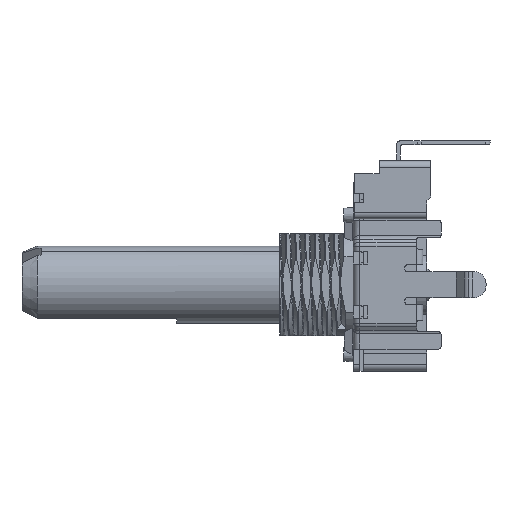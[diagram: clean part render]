
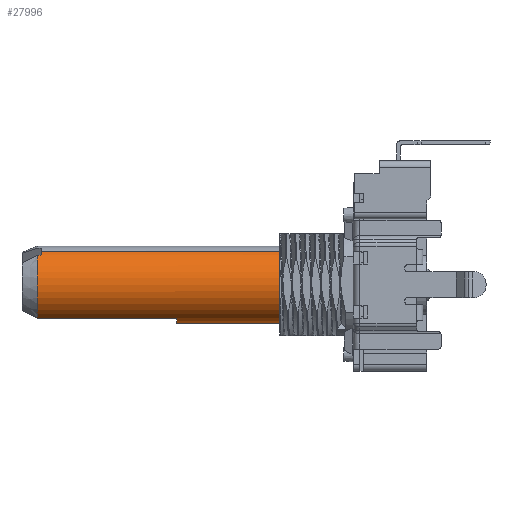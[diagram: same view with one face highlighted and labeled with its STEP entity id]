
A CAD part, left-side view. The second image highlights one B-rep face of the part: STEP entity #27996.
In plain terms, the highlighted cylindrical face has radius 3 mm (diameter 6 mm), a partial arc.
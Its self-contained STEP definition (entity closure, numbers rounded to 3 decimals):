
#94 = ORIENTED_EDGE ( 'NONE', *, *, #22704, .F. ) ;
#376 = LINE ( 'NONE', #14640, #18029 ) ;
#467 = DIRECTION ( 'NONE',  ( 0., 1., 0. ) ) ;
#867 =( BOUNDED_CURVE ( )  B_SPLINE_CURVE ( 3, ( #17615, #25774, #3351, #25600 ),
 .UNSPECIFIED., .F., .F. ) 
 B_SPLINE_CURVE_WITH_KNOTS ( ( 4, 4 ),
 ( 4.528, 4.545 ),
 .UNSPECIFIED. ) 
 CURVE ( )  GEOMETRIC_REPRESENTATION_ITEM ( )  RATIONAL_B_SPLINE_CURVE ( ( 1., 1., 1., 1. ) ) 
 REPRESENTATION_ITEM ( '' )  );
#961 = CARTESIAN_POINT ( 'NONE',  ( 0., 27.3, -3. ) ) ;
#1034 = AXIS2_PLACEMENT_3D ( 'NONE', #20091, #8620, #36206 ) ;
#2163 = EDGE_CURVE ( 'NONE', #8555, #15622, #2675, .T. ) ;
#2675 = CIRCLE ( 'NONE', #12149, 3. ) ;
#3351 = CARTESIAN_POINT ( 'NONE',  ( 0.517, 27.4, -2.955 ) ) ;
#3901 = DIRECTION ( 'NONE',  ( 0., 1., 0. ) ) ;
#4743 = CARTESIAN_POINT ( 'NONE',  ( 0.55, 27.6, -2.949 ) ) ;
#6471 = VERTEX_POINT ( 'NONE', #28719 ) ;
#7852 = VERTEX_POINT ( 'NONE', #961 ) ;
#8010 = CARTESIAN_POINT ( 'NONE',  ( 0., 2.5, 3. ) ) ;
#8049 = CARTESIAN_POINT ( 'NONE',  ( 0., 27.6, 3. ) ) ;
#8555 = VERTEX_POINT ( 'NONE', #8010 ) ;
#8620 = DIRECTION ( 'NONE',  ( 0., -1., 0. ) ) ;
#8784 = CIRCLE ( 'NONE', #12329, 3. ) ;
#8810 = CYLINDRICAL_SURFACE ( 'NONE', #1034, 3. ) ;
#11205 = EDGE_CURVE ( 'NONE', #6471, #8555, #22129, .T. ) ;
#11373 = DIRECTION ( 'NONE',  ( 0., -1., 0. ) ) ;
#12136 = AXIS2_PLACEMENT_3D ( 'NONE', #25904, #23117, #22745 ) ;
#12149 = AXIS2_PLACEMENT_3D ( 'NONE', #32719, #29955, #15923 ) ;
#12329 = AXIS2_PLACEMENT_3D ( 'NONE', #25839, #467, #27126 ) ;
#12904 = ORIENTED_EDGE ( 'NONE', *, *, #2163, .T. ) ;
#13635 = VECTOR ( 'NONE', #11373, 1000. ) ;
#14581 = EDGE_CURVE ( 'NONE', #6471, #31170, #30439, .T. ) ;
#14640 = CARTESIAN_POINT ( 'NONE',  ( 0., 27.6, -3. ) ) ;
#14819 = DIRECTION ( 'NONE',  ( 0., -1., 0. ) ) ;
#15622 = VERTEX_POINT ( 'NONE', #26468 ) ;
#15812 = DIRECTION ( 'NONE',  ( 0., 1., 0. ) ) ;
#15923 = DIRECTION ( 'NONE',  ( 0., 0., 1. ) ) ;
#16428 = VECTOR ( 'NONE', #15812, 1000. ) ;
#16587 = VERTEX_POINT ( 'NONE', #4743 ) ;
#17095 = EDGE_CURVE ( 'NONE', #16587, #27289, #867, .T. ) ;
#17615 = CARTESIAN_POINT ( 'NONE',  ( 0.55, 27.6, -2.949 ) ) ;
#18029 = VECTOR ( 'NONE', #14819, 1000. ) ;
#18641 = AXIS2_PLACEMENT_3D ( 'NONE', #29260, #3901, #32212 ) ;
#18926 = EDGE_CURVE ( 'NONE', #31170, #21321, #24140, .T. ) ;
#20091 = CARTESIAN_POINT ( 'NONE',  ( 0., 27.6, 0. ) ) ;
#20387 = CIRCLE ( 'NONE', #12136, 3. ) ;
#21321 = VERTEX_POINT ( 'NONE', #34296 ) ;
#22129 = LINE ( 'NONE', #8049, #13635 ) ;
#22704 = EDGE_CURVE ( 'NONE', #7852, #15622, #376, .T. ) ;
#22745 = DIRECTION ( 'NONE',  ( 0., 0., -1. ) ) ;
#23117 = DIRECTION ( 'NONE',  ( 0., 1., 0. ) ) ;
#23576 = ORIENTED_EDGE ( 'NONE', *, *, #30130, .F. ) ;
#24140 = LINE ( 'NONE', #35399, #16428 ) ;
#24711 = EDGE_LOOP ( 'NONE', ( #33439, #27607, #12904, #94, #30101, #33084, #23576, #33403 ) ) ;
#24910 = CARTESIAN_POINT ( 'NONE',  ( 0.5, 27.3, -2.958 ) ) ;
#25600 = CARTESIAN_POINT ( 'NONE',  ( 0.5, 27.3, -2.958 ) ) ;
#25774 = CARTESIAN_POINT ( 'NONE',  ( 0.533, 27.5, -2.952 ) ) ;
#25839 = CARTESIAN_POINT ( 'NONE',  ( 0., 27.6, 0. ) ) ;
#25904 = CARTESIAN_POINT ( 'NONE',  ( 0., 27.3, 0. ) ) ;
#26349 = CARTESIAN_POINT ( 'NONE',  ( 2.598, 16.8, 1.5 ) ) ;
#26468 = CARTESIAN_POINT ( 'NONE',  ( 0., 2.5, -3. ) ) ;
#27126 = DIRECTION ( 'NONE',  ( 0., 0., 1. ) ) ;
#27289 = VERTEX_POINT ( 'NONE', #24910 ) ;
#27607 = ORIENTED_EDGE ( 'NONE', *, *, #11205, .T. ) ;
#27996 = ADVANCED_FACE ( 'NONE', ( #33946 ), #8810, .T. ) ;
#28719 = CARTESIAN_POINT ( 'NONE',  ( 0., 16.8, 3. ) ) ;
#29260 = CARTESIAN_POINT ( 'NONE',  ( 0., 16.8, 0. ) ) ;
#29955 = DIRECTION ( 'NONE',  ( 0., 1., 0. ) ) ;
#30101 = ORIENTED_EDGE ( 'NONE', *, *, #34887, .F. ) ;
#30130 = EDGE_CURVE ( 'NONE', #21321, #16587, #8784, .T. ) ;
#30439 = CIRCLE ( 'NONE', #18641, 3. ) ;
#31170 = VERTEX_POINT ( 'NONE', #26349 ) ;
#32212 = DIRECTION ( 'NONE',  ( 0., 0., 1. ) ) ;
#32719 = CARTESIAN_POINT ( 'NONE',  ( 0., 2.5, 0. ) ) ;
#33084 = ORIENTED_EDGE ( 'NONE', *, *, #17095, .F. ) ;
#33403 = ORIENTED_EDGE ( 'NONE', *, *, #18926, .F. ) ;
#33439 = ORIENTED_EDGE ( 'NONE', *, *, #14581, .F. ) ;
#33946 = FACE_OUTER_BOUND ( 'NONE', #24711, .T. ) ;
#34296 = CARTESIAN_POINT ( 'NONE',  ( 2.598, 27.6, 1.5 ) ) ;
#34887 = EDGE_CURVE ( 'NONE', #27289, #7852, #20387, .T. ) ;
#35399 = CARTESIAN_POINT ( 'NONE',  ( 2.598, 16.8, 1.5 ) ) ;
#36206 = DIRECTION ( 'NONE',  ( 0., 0., -1. ) ) ;
